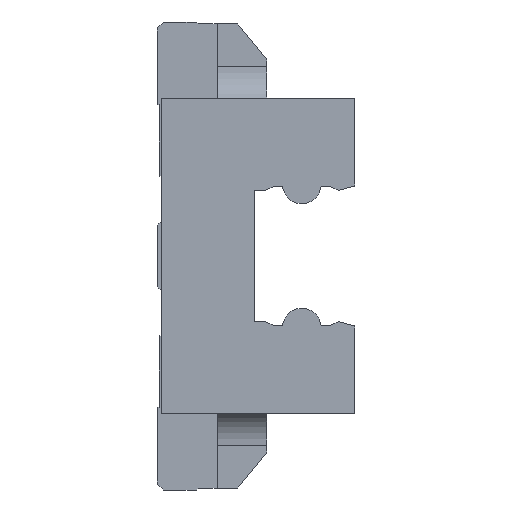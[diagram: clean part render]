
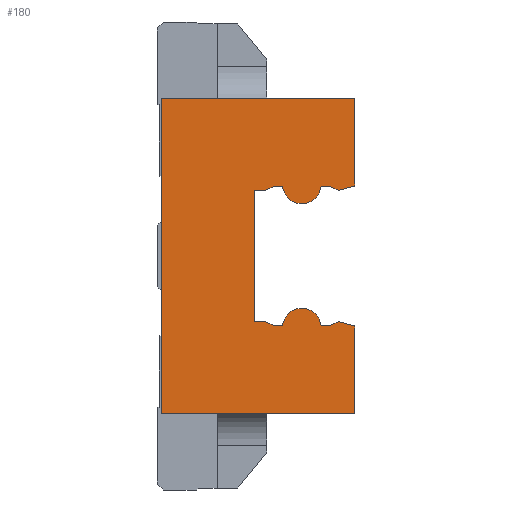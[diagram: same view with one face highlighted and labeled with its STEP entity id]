
A CAD part, left-side view. The second image highlights one B-rep face of the part: STEP entity #180.
In plain terms, the highlighted planar face has unit normal (-1, 0, 0).
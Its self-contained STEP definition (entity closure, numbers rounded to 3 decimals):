
#180 = ADVANCED_FACE( '', ( #400 ), #401, .F. );
#400 = FACE_OUTER_BOUND( '', #620, .T. );
#401 = PLANE( '', #621 );
#620 = EDGE_LOOP( '', ( #1477, #1478, #1479, #1480, #1481, #1482, #1483, #1484, #1485, #1486, #1487, #1488, #1489, #1490, #1491, #1492, #1493, #1494, #1495, #1496 ) );
#621 = AXIS2_PLACEMENT_3D( '', #1497, #1498, #1499 );
#1477 = ORIENTED_EDGE( '', *, *, #1779, .F. );
#1478 = ORIENTED_EDGE( '', *, *, #1726, .F. );
#1479 = ORIENTED_EDGE( '', *, *, #1729, .F. );
#1480 = ORIENTED_EDGE( '', *, *, #1721, .F. );
#1481 = ORIENTED_EDGE( '', *, *, #1732, .F. );
#1482 = ORIENTED_EDGE( '', *, *, #1735, .F. );
#1483 = ORIENTED_EDGE( '', *, *, #1738, .F. );
#1484 = ORIENTED_EDGE( '', *, *, #1741, .F. );
#1485 = ORIENTED_EDGE( '', *, *, #1744, .F. );
#1486 = ORIENTED_EDGE( '', *, *, #1747, .F. );
#1487 = ORIENTED_EDGE( '', *, *, #1750, .F. );
#1488 = ORIENTED_EDGE( '', *, *, #1753, .F. );
#1489 = ORIENTED_EDGE( '', *, *, #1756, .F. );
#1490 = ORIENTED_EDGE( '', *, *, #1759, .F. );
#1491 = ORIENTED_EDGE( '', *, *, #1762, .F. );
#1492 = ORIENTED_EDGE( '', *, *, #1765, .F. );
#1493 = ORIENTED_EDGE( '', *, *, #1768, .F. );
#1494 = ORIENTED_EDGE( '', *, *, #1771, .F. );
#1495 = ORIENTED_EDGE( '', *, *, #1774, .F. );
#1496 = ORIENTED_EDGE( '', *, *, #1777, .F. );
#1497 = CARTESIAN_POINT( '', ( 0., 0., 0. ) );
#1498 = DIRECTION( '', ( 1., 0., 0. ) );
#1499 = DIRECTION( '', ( 0., 0., -1. ) );
#1721 = EDGE_CURVE( '', #2138, #2140, #2141, .T. );
#1726 = EDGE_CURVE( '', #2146, #2148, #2149, .T. );
#1729 = EDGE_CURVE( '', #2140, #2146, #2153, .T. );
#1732 = EDGE_CURVE( '', #2156, #2138, #2158, .T. );
#1735 = EDGE_CURVE( '', #2161, #2156, #2163, .T. );
#1738 = EDGE_CURVE( '', #2166, #2161, #2168, .T. );
#1741 = EDGE_CURVE( '', #2171, #2166, #2173, .T. );
#1744 = EDGE_CURVE( '', #2176, #2171, #2178, .T. );
#1747 = EDGE_CURVE( '', #2181, #2176, #2183, .T. );
#1750 = EDGE_CURVE( '', #2186, #2181, #2188, .T. );
#1753 = EDGE_CURVE( '', #2191, #2186, #2193, .T. );
#1756 = EDGE_CURVE( '', #2196, #2191, #2198, .T. );
#1759 = EDGE_CURVE( '', #2201, #2196, #2203, .T. );
#1762 = EDGE_CURVE( '', #2206, #2201, #2208, .T. );
#1765 = EDGE_CURVE( '', #2211, #2206, #2213, .T. );
#1768 = EDGE_CURVE( '', #2216, #2211, #2218, .T. );
#1771 = EDGE_CURVE( '', #2221, #2216, #2223, .T. );
#1774 = EDGE_CURVE( '', #2226, #2221, #2228, .T. );
#1777 = EDGE_CURVE( '', #2231, #2226, #2233, .T. );
#1779 = EDGE_CURVE( '', #2148, #2231, #2235, .T. );
#2138 = VERTEX_POINT( '', #2770 );
#2140 = VERTEX_POINT( '', #2773 );
#2141 = LINE( '', #2774, #2775 );
#2146 = VERTEX_POINT( '', #2783 );
#2148 = VERTEX_POINT( '', #2786 );
#2149 = LINE( '', #2787, #2788 );
#2153 = LINE( '', #2794, #2795 );
#2156 = VERTEX_POINT( '', #2799 );
#2158 = LINE( '', #2802, #2803 );
#2161 = VERTEX_POINT( '', #2807 );
#2163 = LINE( '', #2810, #2811 );
#2166 = VERTEX_POINT( '', #2815 );
#2168 = LINE( '', #2818, #2819 );
#2171 = VERTEX_POINT( '', #2823 );
#2173 = LINE( '', #2826, #2827 );
#2176 = VERTEX_POINT( '', #2830 );
#2178 = CIRCLE( '', #2833, 1.95 );
#2181 = VERTEX_POINT( '', #2837 );
#2183 = LINE( '', #2840, #2841 );
#2186 = VERTEX_POINT( '', #2845 );
#2188 = LINE( '', #2848, #2849 );
#2191 = VERTEX_POINT( '', #2853 );
#2193 = LINE( '', #2856, #2857 );
#2196 = VERTEX_POINT( '', #2861 );
#2198 = LINE( '', #2864, #2865 );
#2201 = VERTEX_POINT( '', #2869 );
#2203 = LINE( '', #2872, #2873 );
#2206 = VERTEX_POINT( '', #2877 );
#2208 = LINE( '', #2880, #2881 );
#2211 = VERTEX_POINT( '', #2885 );
#2213 = LINE( '', #2888, #2889 );
#2216 = VERTEX_POINT( '', #2892 );
#2218 = CIRCLE( '', #2895, 1.95 );
#2221 = VERTEX_POINT( '', #2899 );
#2223 = LINE( '', #2902, #2903 );
#2226 = VERTEX_POINT( '', #2907 );
#2228 = LINE( '', #2910, #2911 );
#2231 = VERTEX_POINT( '', #2915 );
#2233 = LINE( '', #2918, #2919 );
#2235 = LINE( '', #2922, #2923 );
#2770 = CARTESIAN_POINT( '', ( 0., 0., -15.85 ) );
#2773 = CARTESIAN_POINT( '', ( 0., 19.4, -15.85 ) );
#2774 = CARTESIAN_POINT( '', ( 0., 0., -15.85 ) );
#2775 = VECTOR( '', #3233, 1. );
#2783 = CARTESIAN_POINT( '', ( 0., 19.4, 15.85 ) );
#2786 = CARTESIAN_POINT( '', ( 0., 0., 15.85 ) );
#2787 = CARTESIAN_POINT( '', ( 0., 19.4, 15.85 ) );
#2788 = VECTOR( '', #3238, 1. );
#2794 = CARTESIAN_POINT( '', ( 0., 19.4, -15.85 ) );
#2795 = VECTOR( '', #3241, 1. );
#2799 = CARTESIAN_POINT( '', ( 0., 0., -7.029 ) );
#2802 = CARTESIAN_POINT( '', ( 0., 0., -7.029 ) );
#2803 = VECTOR( '', #3244, 1. );
#2807 = CARTESIAN_POINT( '', ( 0., 1.637, -6.59 ) );
#2810 = CARTESIAN_POINT( '', ( 0., 1.637, -6.59 ) );
#2811 = VECTOR( '', #3247, 1. );
#2815 = CARTESIAN_POINT( '', ( 0., 2.43, -6.96 ) );
#2818 = CARTESIAN_POINT( '', ( 0., 2.43, -6.96 ) );
#2819 = VECTOR( '', #3250, 1. );
#2823 = CARTESIAN_POINT( '', ( 0., 3.365, -6.96 ) );
#2826 = CARTESIAN_POINT( '', ( 0., 3.365, -6.96 ) );
#2827 = VECTOR( '', #3253, 1. );
#2830 = CARTESIAN_POINT( '', ( 0., 7.235, -6.96 ) );
#2833 = AXIS2_PLACEMENT_3D( '', #3258, #3259, #3260 );
#2837 = CARTESIAN_POINT( '', ( 0., 8.157, -6.96 ) );
#2840 = CARTESIAN_POINT( '', ( 0., 8.157, -6.96 ) );
#2841 = VECTOR( '', #3263, 1. );
#2845 = CARTESIAN_POINT( '', ( 0., 8.95, -6.59 ) );
#2848 = CARTESIAN_POINT( '', ( 0., 8.95, -6.59 ) );
#2849 = VECTOR( '', #3266, 1. );
#2853 = CARTESIAN_POINT( '', ( 0., 10.1, -6.59 ) );
#2856 = CARTESIAN_POINT( '', ( 0., 10.1, -6.59 ) );
#2857 = VECTOR( '', #3269, 1. );
#2861 = CARTESIAN_POINT( '', ( 0., 10.1, 6.59 ) );
#2864 = CARTESIAN_POINT( '', ( 0., 10.1, 6.59 ) );
#2865 = VECTOR( '', #3272, 1. );
#2869 = CARTESIAN_POINT( '', ( 0., 8.95, 6.59 ) );
#2872 = CARTESIAN_POINT( '', ( 0., 8.95, 6.59 ) );
#2873 = VECTOR( '', #3275, 1. );
#2877 = CARTESIAN_POINT( '', ( 0., 8.157, 6.96 ) );
#2880 = CARTESIAN_POINT( '', ( 0., 8.157, 6.96 ) );
#2881 = VECTOR( '', #3278, 1. );
#2885 = CARTESIAN_POINT( '', ( 0., 7.235, 6.96 ) );
#2888 = CARTESIAN_POINT( '', ( 0., 7.235, 6.96 ) );
#2889 = VECTOR( '', #3281, 1. );
#2892 = CARTESIAN_POINT( '', ( 0., 3.365, 6.96 ) );
#2895 = AXIS2_PLACEMENT_3D( '', #3286, #3287, #3288 );
#2899 = CARTESIAN_POINT( '', ( 0., 2.43, 6.96 ) );
#2902 = CARTESIAN_POINT( '', ( 0., 2.43, 6.96 ) );
#2903 = VECTOR( '', #3291, 1. );
#2907 = CARTESIAN_POINT( '', ( 0., 1.637, 6.59 ) );
#2910 = CARTESIAN_POINT( '', ( 0., 1.637, 6.59 ) );
#2911 = VECTOR( '', #3294, 1. );
#2915 = CARTESIAN_POINT( '', ( 0., 0., 7.029 ) );
#2918 = CARTESIAN_POINT( '', ( 0., 0., 7.029 ) );
#2919 = VECTOR( '', #3297, 1. );
#2922 = CARTESIAN_POINT( '', ( 0., 0., 15.85 ) );
#2923 = VECTOR( '', #3299, 1. );
#3233 = DIRECTION( '', ( 0., 1., 0. ) );
#3238 = DIRECTION( '', ( 0., -1., 0. ) );
#3241 = DIRECTION( '', ( 0., 0., 1. ) );
#3244 = DIRECTION( '', ( 0., 0., -1. ) );
#3247 = DIRECTION( '', ( 0., -0.966, -0.259 ) );
#3250 = DIRECTION( '', ( 0., -0.906, 0.423 ) );
#3253 = DIRECTION( '', ( 0., -1., 0. ) );
#3258 = CARTESIAN_POINT( '', ( 0., 5.3, -7.2 ) );
#3259 = DIRECTION( '', ( 1., 0., 0. ) );
#3260 = DIRECTION( '', ( 0., 0.992, 0.123 ) );
#3263 = DIRECTION( '', ( 0., -1., 0. ) );
#3266 = DIRECTION( '', ( 0., -0.906, -0.423 ) );
#3269 = DIRECTION( '', ( 0., -1., 0. ) );
#3272 = DIRECTION( '', ( 0., 0., -1. ) );
#3275 = DIRECTION( '', ( 0., 1., 0. ) );
#3278 = DIRECTION( '', ( 0., 0.906, -0.423 ) );
#3281 = DIRECTION( '', ( 0., 1., 0. ) );
#3286 = CARTESIAN_POINT( '', ( 0., 5.3, 7.2 ) );
#3287 = DIRECTION( '', ( 1., 0., 0. ) );
#3288 = DIRECTION( '', ( 0., -0.992, -0.123 ) );
#3291 = DIRECTION( '', ( 0., 1., 0. ) );
#3294 = DIRECTION( '', ( 0., 0.906, 0.423 ) );
#3297 = DIRECTION( '', ( 0., 0.966, -0.259 ) );
#3299 = DIRECTION( '', ( 0., 0., -1. ) );
